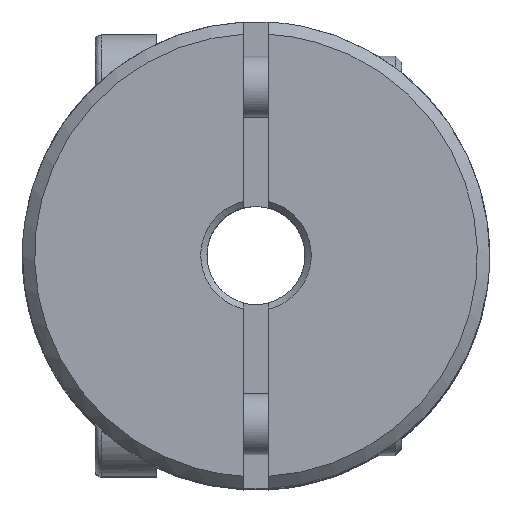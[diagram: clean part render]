
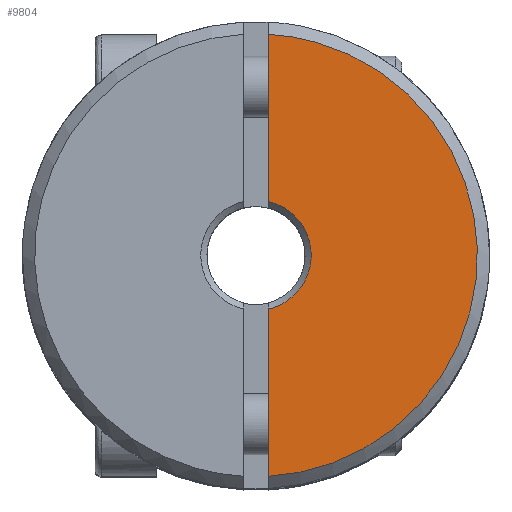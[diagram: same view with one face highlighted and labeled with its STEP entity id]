
A CAD part, top view. The second image highlights one B-rep face of the part: STEP entity #9804.
In plain terms, the highlighted free-form (B-spline) face has degree [3, 3] with [4, 4] control points.
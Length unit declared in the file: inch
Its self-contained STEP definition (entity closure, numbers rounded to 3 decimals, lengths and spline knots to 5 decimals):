
#1708=CARTESIAN_POINT('',(0.03937,-0.17274,
1.31201));
#1970=CARTESIAN_POINT('',(0.03937,-0.70954,
1.31201));
#1977=CARTESIAN_POINT('',(0.03937,0.17274,
1.31201));
#1978=CARTESIAN_POINT('',(0.05732,0.16864,
1.31201));
#1979=CARTESIAN_POINT('',(0.09403,0.15427,
1.31201));
#1980=CARTESIAN_POINT('',(0.13349,0.11971,
1.31201));
#1981=CARTESIAN_POINT('',(0.1564,0.08511,
1.31201));
#1982=CARTESIAN_POINT('',(0.16865,0.05701,
1.31201));
#1983=CARTESIAN_POINT('',(0.17454,0.03296,
1.31201));
#1984=CARTESIAN_POINT('',(0.17681,0.01392,
1.31201));
#1985=CARTESIAN_POINT('',(0.17735,0.,1.31201));
#1986=CARTESIAN_POINT('',(0.17681,-0.01392,
1.31201));
#1987=CARTESIAN_POINT('',(0.17454,-0.03296,
1.31201));
#1988=CARTESIAN_POINT('',(0.16865,-0.05701,
1.31201));
#1989=CARTESIAN_POINT('',(0.1564,-0.08511,
1.31201));
#1990=CARTESIAN_POINT('',(0.13349,-0.11971,
1.31201));
#1991=CARTESIAN_POINT('',(0.09403,-0.15427,
1.31201));
#1992=CARTESIAN_POINT('',(0.05732,-0.16864,
1.31201));
#1993=CARTESIAN_POINT('',(0.03937,-0.17274,
1.31201));
#1995=DIRECTION('',(0.,-1.,0.));
#1996=VECTOR('',#1995,0.5368);
#1997=CARTESIAN_POINT('',(0.03937,0.70954,
1.31201));
#1998=LINE('',#1997,#1996);
#1999=CARTESIAN_POINT('',(0.03937,-0.70954,
1.31201));
#2000=CARTESIAN_POINT('',(0.08003,-0.70728,
1.31201));
#2001=CARTESIAN_POINT('',(0.16379,-0.69559,
1.31201));
#2002=CARTESIAN_POINT('',(0.29097,-0.65313,
1.31201));
#2003=CARTESIAN_POINT('',(0.41227,-0.58451,
1.31201));
#2004=CARTESIAN_POINT('',(0.51978,-0.49151,
1.31201));
#2005=CARTESIAN_POINT('',(0.60662,-0.37899,
1.31201));
#2006=CARTESIAN_POINT('',(0.65803,-0.27492,
1.31201));
#2007=CARTESIAN_POINT('',(0.68598,-0.18948,
1.31201));
#2008=CARTESIAN_POINT('',(0.70051,-0.12524,
1.31201));
#2009=CARTESIAN_POINT('',(0.70749,-0.07231,
1.31201));
#2010=CARTESIAN_POINT('',(0.71019,-0.03066,
1.31201));
#2011=CARTESIAN_POINT('',(0.71085,0.,1.31201));
#2012=CARTESIAN_POINT('',(0.71019,0.03066,
1.31201));
#2013=CARTESIAN_POINT('',(0.70749,0.07231,
1.31201));
#2014=CARTESIAN_POINT('',(0.70051,0.12524,
1.31201));
#2015=CARTESIAN_POINT('',(0.68598,0.18948,
1.31201));
#2016=CARTESIAN_POINT('',(0.65803,0.27492,
1.31201));
#2017=CARTESIAN_POINT('',(0.60662,0.37899,
1.31201));
#2018=CARTESIAN_POINT('',(0.51978,0.49151,
1.31201));
#2019=CARTESIAN_POINT('',(0.41227,0.58451,
1.31201));
#2020=CARTESIAN_POINT('',(0.29097,0.65313,
1.31201));
#2021=CARTESIAN_POINT('',(0.16379,0.69559,
1.31201));
#2022=CARTESIAN_POINT('',(0.08003,0.70728,
1.31201));
#2023=CARTESIAN_POINT('',(0.03937,0.70954,
1.31201));
#2025=DIRECTION('',(0.,-1.,0.));
#2026=VECTOR('',#2025,0.5368);
#2027=CARTESIAN_POINT('',(0.03937,-0.17274,
1.31201));
#2028=LINE('',#2027,#2026);
#6116=VERTEX_POINT('',#1708);
#6118=VERTEX_POINT('',#1977);
#6123=CARTESIAN_POINT('',(0.03937,0.70954,
1.31201));
#6124=VERTEX_POINT('',#6123);
#6178=VERTEX_POINT('',#1970);
#9781=CARTESIAN_POINT('',(0.02594,-0.73792,
1.31201));
#9782=CARTESIAN_POINT('',(0.02594,-0.24597,
1.31201));
#9783=CARTESIAN_POINT('',(0.02594,0.24597,
1.31201));
#9784=CARTESIAN_POINT('',(0.02594,0.73792,
1.31201));
#9785=CARTESIAN_POINT('',(0.25865,-0.73792,
1.31201));
#9786=CARTESIAN_POINT('',(0.25865,-0.24597,
1.31201));
#9787=CARTESIAN_POINT('',(0.25865,0.24597,
1.31201));
#9788=CARTESIAN_POINT('',(0.25865,0.73792,
1.31201));
#9789=CARTESIAN_POINT('',(0.49135,-0.73792,
1.31201));
#9790=CARTESIAN_POINT('',(0.49135,-0.24597,
1.31201));
#9791=CARTESIAN_POINT('',(0.49135,0.24597,
1.31201));
#9792=CARTESIAN_POINT('',(0.49135,0.73792,
1.31201));
#9793=CARTESIAN_POINT('',(0.72406,-0.73792,
1.31201));
#9794=CARTESIAN_POINT('',(0.72406,-0.24597,
1.31201));
#9795=CARTESIAN_POINT('',(0.72406,0.24597,
1.31201));
#9796=CARTESIAN_POINT('',(0.72406,0.73792,
1.31201));
#9797=B_SPLINE_SURFACE_WITH_KNOTS('',3,3,((#9781,#9782,#9783,#9784),(#9785,
#9786,#9787,#9788),(#9789,#9790,#9791,#9792),(#9793,#9794,#9795,#9796)),
.UNSPECIFIED.,.F.,.F.,.F.,(4,4),(4,4),(-1.8391,-0.0659),(
-1.87432,1.87432),.UNSPECIFIED.);
#9798=ORIENTED_EDGE('',*,*,#9572,.F.);
#9799=ORIENTED_EDGE('',*,*,#9674,.F.);
#9800=ORIENTED_EDGE('',*,*,#9769,.F.);
#9801=ORIENTED_EDGE('',*,*,#9525,.F.);
#9802=EDGE_LOOP('',(#9798,#9799,#9800,#9801));
#9803=FACE_OUTER_BOUND('',#9802,.F.);
#1994=B_SPLINE_CURVE_WITH_KNOTS('',3,(#1977,#1978,#1979,#1980,#1981,#1982,#1983,
#1984,#1985,#1986,#1987,#1988,#1989,#1990,#1991,#1992,#1993),.UNSPECIFIED.,.F.,
.F.,(4,1,1,1,1,1,1,1,1,1,1,1,1,1,4),(0.,0.125,0.25,0.3125,0.375,
0.4375,0.46875,0.5,0.53125,0.5625,0.625,0.6875,0.75,0.875,
1.),.UNSPECIFIED.);
#2024=B_SPLINE_CURVE_WITH_KNOTS('',3,(#1999,#2000,#2001,#2002,#2003,#2004,#2005,
#2006,#2007,#2008,#2009,#2010,#2011,#2012,#2013,#2014,#2015,#2016,#2017,#2018,
#2019,#2020,#2021,#2022,#2023),.UNSPECIFIED.,.F.,.F.,(4,1,1,1,1,1,1,1,1,1,1,1,1,
1,1,1,1,1,1,1,1,1,4),(0.,0.0625,0.125,0.1875,0.25,0.3125,0.375,
0.40625,0.4375,0.46875,0.48438,0.5,0.51563,0.53125,0.5625,
0.59375,0.625,0.6875,0.75,0.8125,0.875,0.9375,1.),
.UNSPECIFIED.);
#9525=EDGE_CURVE('',#6116,#6178,#2028,.T.);
#9572=EDGE_CURVE('',#6118,#6116,#1994,.T.);
#9674=EDGE_CURVE('',#6124,#6118,#1998,.T.);
#9769=EDGE_CURVE('',#6178,#6124,#2024,.T.);
#9804=ADVANCED_FACE('',(#9803),#9797,.T.);
